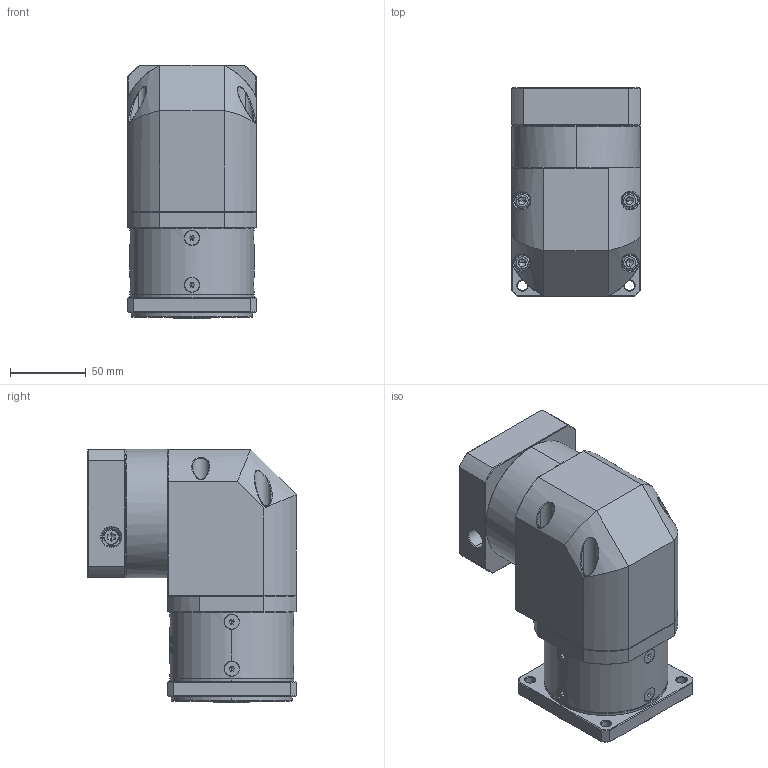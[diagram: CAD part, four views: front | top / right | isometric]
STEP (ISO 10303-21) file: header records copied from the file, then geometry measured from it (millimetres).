
FILE_DESCRIPTION (( 'STEP AP214' ), '1' );
FILE_NAME ('ZFR080-K15-L1-P2-19-70-90-M5.step', '2023-08-25T03:55:44', ( '' ), ( '' ), 'SwSTEP 2.0', 'SolidWorks 2016', '' );
FILE_SCHEMA (( 'AUTOMOTIVE_DESIGN' ));
Length unit declared in the file: millimetre
Products named in the file (1): ZFR080-K15-L1-P2-19-70-90-M5
Bounding box: 85 x 137.6 x 167.5 mm (x, y, z)
Volume: 1238902.1 mm3; surface area: 133537.2 mm2
Topology: 13 solids, 13 shells, 2432 faces, 6278 edges, 3951 vertices
Faces by surface type: plane 1189, cylinder 443, bspline 414, cone 354, torus 32
Entity records: 127823 total; most frequent: CARTESIAN_POINT 47121, ORIENTED_EDGE 12468, DIRECTION 9449, EDGE_CURVE 6234, VERTEX_POINT 3951, VECTOR 3365, LINE 3365, AXIS2_PLACEMENT_3D 3042
